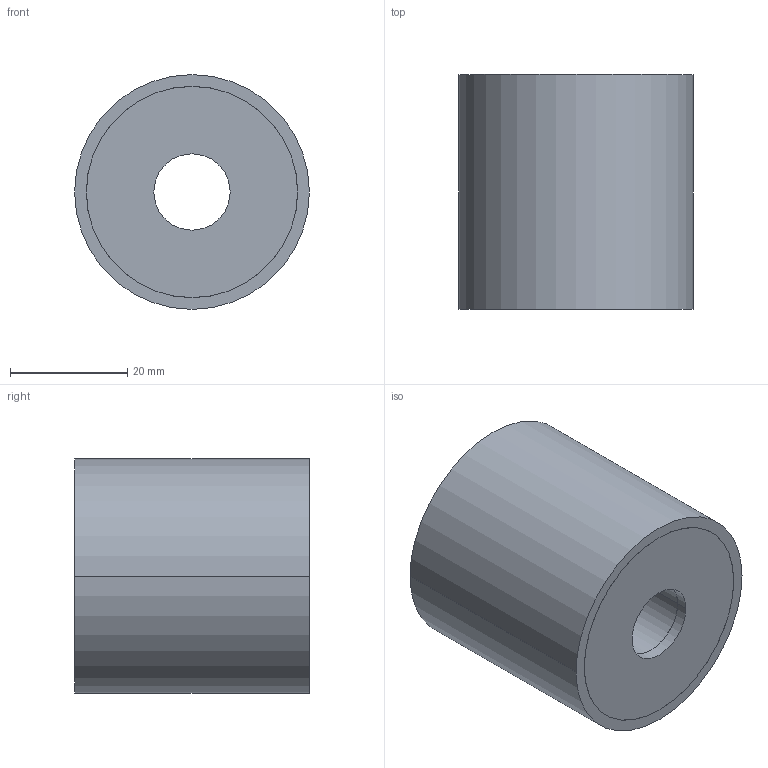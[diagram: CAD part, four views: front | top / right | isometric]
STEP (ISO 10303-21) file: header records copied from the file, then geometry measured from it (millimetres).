
FILE_DESCRIPTION (( 'STEP AP214' ), '1' );
FILE_NAME ('351-40-40-13-DD-40.step', '2025-07-23T10:14:30', ( '' ), ( '' ), 'SwSTEP 2.0', 'SolidWorks 2022', '' );
FILE_SCHEMA (( 'AUTOMOTIVE_DESIGN' ));
Length unit declared in the file: millimetre
Products named in the file (1): 351-40-40-13-DD-40
Bounding box: 40 x 40 x 40 mm (x, y, z)
Volume: 44956.2 mm3; surface area: 8914.1 mm2
Topology: 1 solids, 1 shells, 30 faces, 60 edges, 40 vertices
Faces by surface type: cylinder 20, plane 10
Entity records: 919 total; most frequent: DIRECTION 162, CARTESIAN_POINT 131, ORIENTED_EDGE 120, AXIS2_PLACEMENT_3D 71, EDGE_CURVE 60, VERTEX_POINT 40, CIRCLE 40, EDGE_LOOP 40
